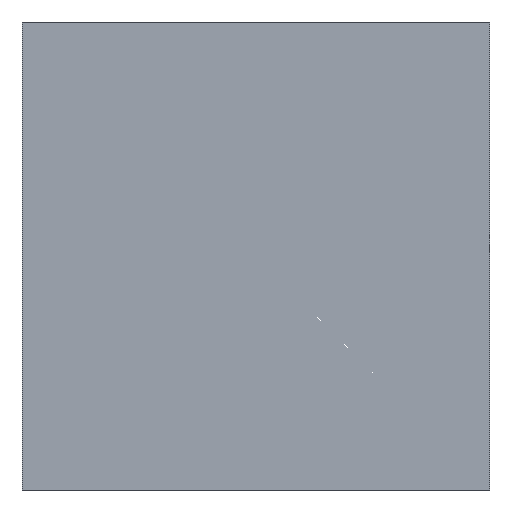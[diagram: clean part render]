
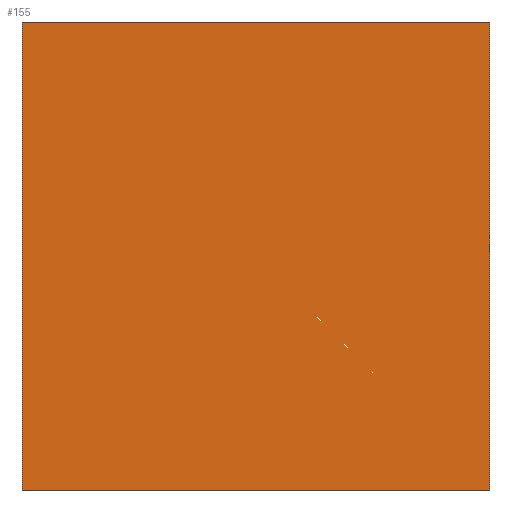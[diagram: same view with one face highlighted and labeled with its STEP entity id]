
A CAD part, left-side view. The second image highlights one B-rep face of the part: STEP entity #155.
In plain terms, the highlighted planar face has unit normal (-1, 0, 0) as drawn and (1, 0, 0) by its records, which use the part's own axes.
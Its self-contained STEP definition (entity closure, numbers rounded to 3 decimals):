
#62 = PLANE('',#63);
#63 = AXIS2_PLACEMENT_3D('',#64,#65,#66);
#64 = CARTESIAN_POINT('',(-0.125,-3.25,-3.25));
#65 = DIRECTION('',(0.,1.,0.));
#66 = DIRECTION('',(0.,0.,1.));
#90 = PLANE('',#91);
#91 = AXIS2_PLACEMENT_3D('',#92,#93,#94);
#92 = CARTESIAN_POINT('',(-0.125,-3.25,-3.25));
#93 = DIRECTION('',(0.,0.,1.));
#94 = DIRECTION('',(1.,0.,0.));
#118 = PLANE('',#119);
#119 = AXIS2_PLACEMENT_3D('',#120,#121,#122);
#120 = CARTESIAN_POINT('',(-0.125,3.25,-3.25));
#121 = DIRECTION('',(0.,1.,0.));
#122 = DIRECTION('',(0.,0.,1.));
#144 = PLANE('',#145);
#145 = AXIS2_PLACEMENT_3D('',#146,#147,#148);
#146 = CARTESIAN_POINT('',(-0.125,-3.25,3.25));
#147 = DIRECTION('',(0.,0.,1.));
#148 = DIRECTION('',(1.,0.,0.));
#155 = ADVANCED_FACE('',(#156),#170,.T.);
#156 = FACE_BOUND('',#157,.T.);
#157 = EDGE_LOOP('',(#158,#188,#211,#234));
#158 = ORIENTED_EDGE('',*,*,#159,.F.);
#159 = EDGE_CURVE('',#160,#162,#164,.T.);
#160 = VERTEX_POINT('',#161);
#161 = CARTESIAN_POINT('',(0.125,-3.25,-3.25));
#162 = VERTEX_POINT('',#163);
#163 = CARTESIAN_POINT('',(0.125,-3.25,3.25));
#164 = SURFACE_CURVE('',#165,(#169,#181),.PCURVE_S1.);
#165 = LINE('',#166,#167);
#166 = CARTESIAN_POINT('',(0.125,-3.25,-3.25));
#167 = VECTOR('',#168,1.);
#168 = DIRECTION('',(0.,0.,1.));
#169 = PCURVE('',#170,#175);
#170 = PLANE('',#171);
#171 = AXIS2_PLACEMENT_3D('',#172,#173,#174);
#172 = CARTESIAN_POINT('',(0.125,-3.25,-3.25));
#173 = DIRECTION('',(1.,0.,0.));
#174 = DIRECTION('',(0.,0.,1.));
#175 = DEFINITIONAL_REPRESENTATION('',(#176),#180);
#176 = LINE('',#177,#178);
#177 = CARTESIAN_POINT('',(0.,0.));
#178 = VECTOR('',#179,1.);
#179 = DIRECTION('',(1.,0.));
#180 = ( GEOMETRIC_REPRESENTATION_CONTEXT(2) 
PARAMETRIC_REPRESENTATION_CONTEXT() REPRESENTATION_CONTEXT('2D SPACE',''
  ) );
#181 = PCURVE('',#62,#182);
#182 = DEFINITIONAL_REPRESENTATION('',(#183),#187);
#183 = LINE('',#184,#185);
#184 = CARTESIAN_POINT('',(0.,0.25));
#185 = VECTOR('',#186,1.);
#186 = DIRECTION('',(1.,0.));
#187 = ( GEOMETRIC_REPRESENTATION_CONTEXT(2) 
PARAMETRIC_REPRESENTATION_CONTEXT() REPRESENTATION_CONTEXT('2D SPACE',''
  ) );
#188 = ORIENTED_EDGE('',*,*,#189,.T.);
#189 = EDGE_CURVE('',#160,#190,#192,.T.);
#190 = VERTEX_POINT('',#191);
#191 = CARTESIAN_POINT('',(0.125,3.25,-3.25));
#192 = SURFACE_CURVE('',#193,(#197,#204),.PCURVE_S1.);
#193 = LINE('',#194,#195);
#194 = CARTESIAN_POINT('',(0.125,-3.25,-3.25));
#195 = VECTOR('',#196,1.);
#196 = DIRECTION('',(0.,1.,0.));
#197 = PCURVE('',#170,#198);
#198 = DEFINITIONAL_REPRESENTATION('',(#199),#203);
#199 = LINE('',#200,#201);
#200 = CARTESIAN_POINT('',(0.,0.));
#201 = VECTOR('',#202,1.);
#202 = DIRECTION('',(0.,-1.));
#203 = ( GEOMETRIC_REPRESENTATION_CONTEXT(2) 
PARAMETRIC_REPRESENTATION_CONTEXT() REPRESENTATION_CONTEXT('2D SPACE',''
  ) );
#204 = PCURVE('',#90,#205);
#205 = DEFINITIONAL_REPRESENTATION('',(#206),#210);
#206 = LINE('',#207,#208);
#207 = CARTESIAN_POINT('',(0.25,0.));
#208 = VECTOR('',#209,1.);
#209 = DIRECTION('',(0.,1.));
#210 = ( GEOMETRIC_REPRESENTATION_CONTEXT(2) 
PARAMETRIC_REPRESENTATION_CONTEXT() REPRESENTATION_CONTEXT('2D SPACE',''
  ) );
#211 = ORIENTED_EDGE('',*,*,#212,.T.);
#212 = EDGE_CURVE('',#190,#213,#215,.T.);
#213 = VERTEX_POINT('',#214);
#214 = CARTESIAN_POINT('',(0.125,3.25,3.25));
#215 = SURFACE_CURVE('',#216,(#220,#227),.PCURVE_S1.);
#216 = LINE('',#217,#218);
#217 = CARTESIAN_POINT('',(0.125,3.25,-3.25));
#218 = VECTOR('',#219,1.);
#219 = DIRECTION('',(0.,0.,1.));
#220 = PCURVE('',#170,#221);
#221 = DEFINITIONAL_REPRESENTATION('',(#222),#226);
#222 = LINE('',#223,#224);
#223 = CARTESIAN_POINT('',(0.,-6.5));
#224 = VECTOR('',#225,1.);
#225 = DIRECTION('',(1.,0.));
#226 = ( GEOMETRIC_REPRESENTATION_CONTEXT(2) 
PARAMETRIC_REPRESENTATION_CONTEXT() REPRESENTATION_CONTEXT('2D SPACE',''
  ) );
#227 = PCURVE('',#118,#228);
#228 = DEFINITIONAL_REPRESENTATION('',(#229),#233);
#229 = LINE('',#230,#231);
#230 = CARTESIAN_POINT('',(0.,0.25));
#231 = VECTOR('',#232,1.);
#232 = DIRECTION('',(1.,0.));
#233 = ( GEOMETRIC_REPRESENTATION_CONTEXT(2) 
PARAMETRIC_REPRESENTATION_CONTEXT() REPRESENTATION_CONTEXT('2D SPACE',''
  ) );
#234 = ORIENTED_EDGE('',*,*,#235,.F.);
#235 = EDGE_CURVE('',#162,#213,#236,.T.);
#236 = SURFACE_CURVE('',#237,(#241,#248),.PCURVE_S1.);
#237 = LINE('',#238,#239);
#238 = CARTESIAN_POINT('',(0.125,-3.25,3.25));
#239 = VECTOR('',#240,1.);
#240 = DIRECTION('',(0.,1.,0.));
#241 = PCURVE('',#170,#242);
#242 = DEFINITIONAL_REPRESENTATION('',(#243),#247);
#243 = LINE('',#244,#245);
#244 = CARTESIAN_POINT('',(6.5,0.));
#245 = VECTOR('',#246,1.);
#246 = DIRECTION('',(0.,-1.));
#247 = ( GEOMETRIC_REPRESENTATION_CONTEXT(2) 
PARAMETRIC_REPRESENTATION_CONTEXT() REPRESENTATION_CONTEXT('2D SPACE',''
  ) );
#248 = PCURVE('',#144,#249);
#249 = DEFINITIONAL_REPRESENTATION('',(#250),#254);
#250 = LINE('',#251,#252);
#251 = CARTESIAN_POINT('',(0.25,0.));
#252 = VECTOR('',#253,1.);
#253 = DIRECTION('',(0.,1.));
#254 = ( GEOMETRIC_REPRESENTATION_CONTEXT(2) 
PARAMETRIC_REPRESENTATION_CONTEXT() REPRESENTATION_CONTEXT('2D SPACE',''
  ) );
